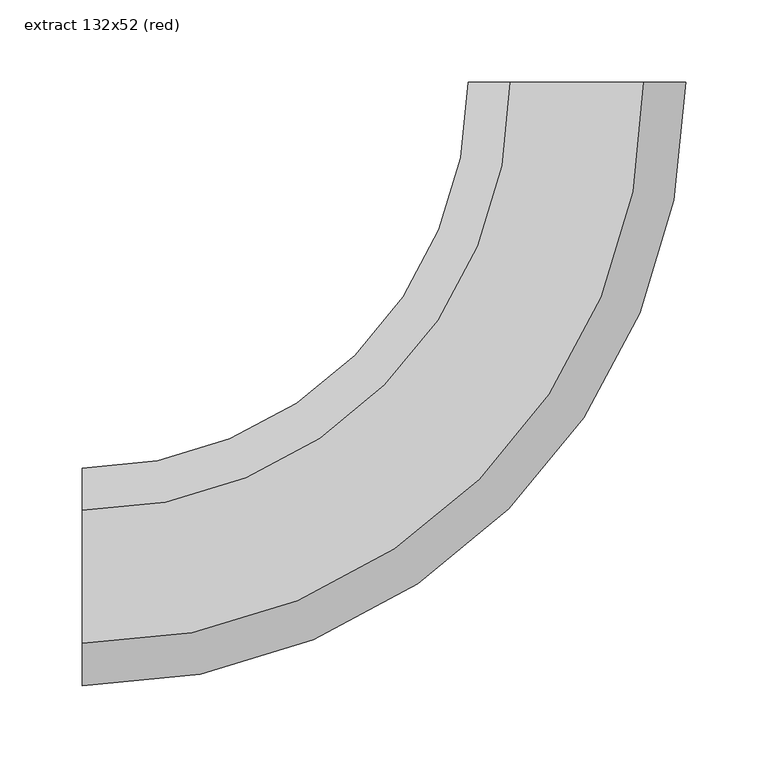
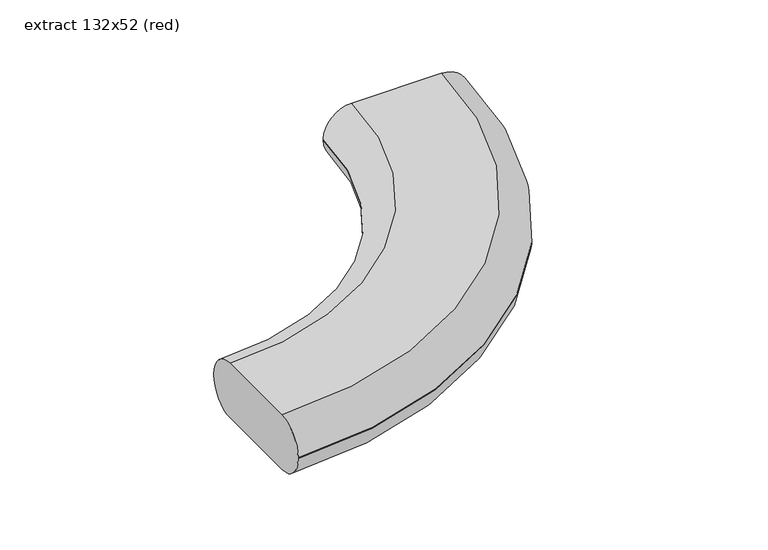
"""IFC4 building model written with IfcOpenShell, lengths in millimetres: duct segment geometry, NLRS_57_DUF_UN_Hybalans flexbend oval_M&G : extract 132x52 (red)."""

from ifc_helpers import new_model, si_unit, point, frame, origin, place, context, project, spatial, polyline, circle_curve, ellipse_curve, trimmed, source, transform, mapped, element, save
from ifc_brep_helpers import plane_surface, cylinder_surface, revolved_surface, advanced_brep


def extract_132x52_red_0ccfaded(model_context):
    return source(origin(), model_context, "Body", "AdvancedBrep", [
        advanced_brep(
        [(-300.0, -40.4, 26.0), (-300.0, 40.4, 26.0), (-300.0, 66.0, 0.4), (-300.0, 66.0, -0.4), (-300.0, 40.4, -26.0), (-300.0, -40.4, -26.0), (-300.0, -66.0, -0.4), (-300.0, -66.0, 0.4), (40.4, 300.0, 26.0), (66.0, 300.0, 0.4), (66.0, 300.0, -0.4), (40.4, 300.0, -26.0), (-40.4, 300.0, -26.0), (-66.0, 300.0, -0.4), (-66.0, 300.0, 0.4), (-40.4, 300.0, 26.0)],
        [
            (0, 1),
            (1, 2, circle_curve(frame((-300.0, 40.4, 0.4), z_axis=(-1.0, 0.0, 0.0), x_axis=(0.0, 1.0, 0.0)), 25.6)),
            (2, 3),
            (3, 4, circle_curve(frame((-300.0, 40.4, -0.4), z_axis=(-1.0, 0.0, 0.0), x_axis=(0.0, 1.0, 0.0)), 25.6)),
            (4, 5),
            (5, 6, circle_curve(frame((-300.0, -40.4, -0.4), z_axis=(-1.0, 0.0, 0.0), x_axis=(0.0, 1.0, 0.0)), 25.6)),
            (6, 7),
            (7, 0, circle_curve(frame((-300.0, -40.4, 0.4), z_axis=(-1.0, 0.0, 0.0), x_axis=(0.0, 1.0, 0.0)), 25.6)),
            (8, 9, circle_curve(frame((40.4, 300.0, 0.4), z_axis=(0.0, 1.0, 0.0), x_axis=(-1.0, 0.0, 0.0)), 25.6)),
            (9, 10),
            (10, 11, circle_curve(frame((40.4, 300.0, -0.4), z_axis=(0.0, 1.0, 0.0), x_axis=(-1.0, 0.0, 0.0)), 25.6)),
            (11, 12),
            (12, 13, circle_curve(frame((-40.4, 300.0, -0.4), z_axis=(0.0, 1.0, 0.0), x_axis=(-1.0, 0.0, 0.0)), 25.6)),
            (13, 14),
            (14, 15, circle_curve(frame((-40.4, 300.0, 0.4), z_axis=(0.0, 1.0, 0.0), x_axis=(-1.0, 0.0, 0.0)), 25.6)),
            (15, 8),
            (15, 1, circle_curve(frame((-300.0, 300.0, 26.0), z_axis=(0.0, 0.0, -1.0), x_axis=(0.0, -1.0, 0.0)), 259.6)),
            (0, 8, circle_curve(frame((-300.0, 300.0, 26.0), z_axis=(0.0, 0.0, 1.0), x_axis=(0.0, -1.0, 0.0)), 340.4)),
            (14, 2, circle_curve(frame((-300.0, 300.0, 0.4), z_axis=(0.0, 0.0, -1.0), x_axis=(0.0, -1.0, 0.0)), 234.0)),
            (13, 3, circle_curve(frame((-300.0, 300.0, -0.4), z_axis=(0.0, 0.0, -1.0), x_axis=(0.0, -1.0, 0.0)), 234.0)),
            (12, 4, circle_curve(frame((-300.0, 300.0, -26.0), z_axis=(0.0, 0.0, -1.0), x_axis=(0.0, -1.0, 0.0)), 259.6)),
            (11, 5, circle_curve(frame((-300.0, 300.0, -26.0), z_axis=(0.0, 0.0, -1.0), x_axis=(0.0, -1.0, 0.0)), 340.4)),
            (10, 6, circle_curve(frame((-300.0, 300.0, -0.4), z_axis=(0.0, 0.0, -1.0), x_axis=(0.0, -1.0, 0.0)), 366.0)),
            (9, 7, circle_curve(frame((-300.0, 300.0, 0.4), z_axis=(0.0, 0.0, -1.0), x_axis=(0.0, -1.0, 0.0)), 366.0)),
        ],
        [
            plane_surface(frame((-300.0, 0.0, 0.0), z_axis=(-1.0, 0.0, 0.0), x_axis=(0.0, 0.0, 1.0))),
            plane_surface(frame((0.0, 300.0, 0.0), z_axis=(0.0, 1.0, 0.0), x_axis=(0.0, 0.0, 1.0))),
            plane_surface(frame((-300.0, 300.0, 26.0), z_axis=(0.0, 0.0, 1.0), x_axis=(0.0, -1.0, 0.0))),
            revolved_surface(trimmed(ellipse_curve(frame((-300.0, 40.4, 0.4), z_axis=(-1.0, 0.0, 0.0), x_axis=(0.0, 1.0, 0.0)), 25.6, 25.6), [point((-300.0, 40.4, 26.0))], [point((-300.0, 66.0, 0.4))], True, "CARTESIAN"), (-300.0, 300.0, 0.0), (0.0, 0.0, 1.0)),
            revolved_surface(polyline([(-300.0, 66.0, 0.4), (-300.0, 66.0, -0.4)]), (-300.0, 300.0, 0.0), (0.0, 0.0, 1.0)),
            revolved_surface(trimmed(ellipse_curve(frame((-300.0, 40.4, -0.4), z_axis=(-1.0, 0.0, 0.0), x_axis=(0.0, 1.0, 0.0)), 25.6, 25.6), [point((-300.0, 66.0, -0.4))], [point((-300.0, 40.4, -26.0))], True, "CARTESIAN"), (-300.0, 300.0, 0.0), (0.0, 0.0, 1.0)),
            plane_surface(frame((-300.0, 300.0, -26.0), z_axis=(0.0, 0.0, -1.0), x_axis=(0.0, -1.0, 0.0))),
            revolved_surface(trimmed(ellipse_curve(frame((-300.0, -40.4, -0.4), z_axis=(-1.0, 0.0, 0.0), x_axis=(0.0, 1.0, 0.0)), 25.6, 25.6), [point((-300.0, -40.4, -26.0))], [point((-300.0, -66.0, -0.4))], True, "CARTESIAN"), (-300.0, 300.0, 0.0), (0.0, 0.0, 1.0)),
            cylinder_surface(frame((-300.0, 300.0, 0.0), z_axis=(0.0, 0.0, 1.0), x_axis=(0.0, -1.0, 0.0)), 366.0),
            revolved_surface(trimmed(ellipse_curve(frame((-300.0, -40.4, 0.4), z_axis=(-1.0, 0.0, 0.0), x_axis=(0.0, 1.0, 0.0)), 25.6, 25.6), [point((-300.0, -66.0, 0.4))], [point((-300.0, -40.4, 26.0))], True, "CARTESIAN"), (-300.0, 300.0, 0.0), (0.0, 0.0, 1.0)),
        ],
        [
            (0, [[1, 2, 3, 4, 5, 6, 7, 8]]),
            (1, [[9, 10, 11, 12, 13, 14, 15, 16]]),
            (2, [[17, -1, 18, -16]]),
            (3, [[19, -2, -17, -15]]),
            (4, [[20, -3, -19, -14]]),
            (5, [[21, -4, -20, -13]]),
            (6, [[22, -5, -21, -12]]),
            (7, [[23, -6, -22, -11]]),
            (8, [[24, -7, -23, -10]]),
            (9, [[-18, -8, -24, -9]]),
        ],
    ),
    ])


if __name__ == "__main__":
    model = new_model("IFC4")
    model_context = context("Model", 3, world=origin())
    ifc_project = project(units=[si_unit("LENGTHUNIT", "METRE", prefix="MILLI")], contexts=[model_context])
    site = spatial("IfcSite", under=ifc_project)
    building = spatial("IfcBuilding", under=site)
    placement = place(None, origin())
    extract_132x52_red_shape = extract_132x52_red_0ccfaded(model_context)
    element("IfcDuctSegment", 1, ObjectType="NLRS_57_DUF_UN_Hybalans flexbend oval_M&G : extract 132x52 (red)", at=placement, inside=building, context=model_context, shape_type="MappedRepresentation", body=[
        mapped(extract_132x52_red_shape, transform((0.0, 0.0, 0.0), x_axis=(1.0, 0.0, 0.0), y_axis=(0.0, 1.0, 0.0), z_axis=(0.0, 0.0, 1.0))),
    ])
    save(model, "model.ifc")
